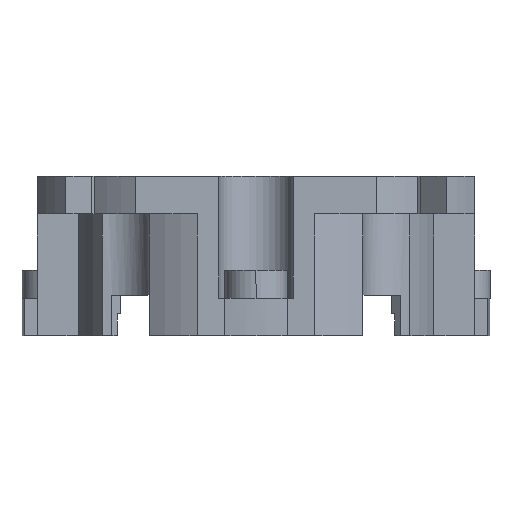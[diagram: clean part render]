
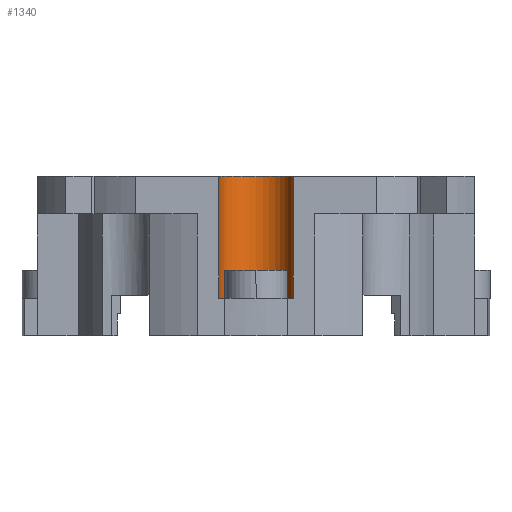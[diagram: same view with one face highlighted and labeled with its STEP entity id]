
A CAD part, left-side view. The second image highlights one B-rep face of the part: STEP entity #1340.
In plain terms, the highlighted cylindrical face has radius 6 mm (diameter 12 mm), a partial arc.
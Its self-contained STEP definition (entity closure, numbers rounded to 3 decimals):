
#1340=ADVANCED_FACE('',(#1491),#3985,.F.);
#1491=FACE_OUTER_BOUND('',#1643,.T.);
#1643=EDGE_LOOP('',(#2356,#2357,#2358,#2359));
#2356=ORIENTED_EDGE('',*,*,#2868,.F.);
#2357=ORIENTED_EDGE('',*,*,#2871,.F.);
#2358=ORIENTED_EDGE('',*,*,#2869,.F.);
#2359=ORIENTED_EDGE('',*,*,#2870,.F.);
#2868=EDGE_CURVE('',#3831,#3726,#3508,.T.);
#2869=EDGE_CURVE('',#3727,#3830,#3509,.T.);
#2870=EDGE_CURVE('',#3726,#3727,#3110,.T.);
#2871=EDGE_CURVE('',#3830,#3831,#3111,.T.);
#3110=TRIMMED_CURVE($,#3288,(#6264),(#6265),.T.,.CARTESIAN.);
#3111=TRIMMED_CURVE($,#3289,(#6267),(#6268),.T.,.CARTESIAN.);
#3288=CIRCLE('',#4473,6.);
#3289=CIRCLE('',#4474,6.);
#3508=B_SPLINE_CURVE_WITH_KNOTS('',1,(#6259,#6260),.UNSPECIFIED.,.F.,.F.,
(2,2),(0.,19.5),.UNSPECIFIED.);
#3509=B_SPLINE_CURVE_WITH_KNOTS('',1,(#6261,#6262),.UNSPECIFIED.,.F.,.F.,
(2,2),(0.,19.5),.UNSPECIFIED.);
#3726=VERTEX_POINT('',#5331);
#3727=VERTEX_POINT('',#5332);
#3830=VERTEX_POINT('',#5435);
#3831=VERTEX_POINT('',#5436);
#3985=CYLINDRICAL_SURFACE('',#4290,6.);
#4290=AXIS2_PLACEMENT_3D('',#5138,#4625,$);
#4473=AXIS2_PLACEMENT_3D($,#6263,#4952,#4953);
#4474=AXIS2_PLACEMENT_3D($,#6266,#4954,#4955);
#4625=DIRECTION('',(1.,0.,0.));
#4952=DIRECTION('',(-1.,0.,0.));
#4953=DIRECTION('',(0.,1.,0.));
#4954=DIRECTION('',(1.,0.,0.));
#4955=DIRECTION('',(0.,-1.,0.));
#5138=CARTESIAN_POINT('',(15.75,0.,32.5));
#5331=CARTESIAN_POINT('',(25.5,6.,32.5));
#5332=CARTESIAN_POINT('',(25.5,-6.,32.5));
#5435=CARTESIAN_POINT('',(6.,-6.,32.5));
#5436=CARTESIAN_POINT('',(6.,6.,32.5));
#6259=CARTESIAN_POINT('',(6.,6.,32.5));
#6260=CARTESIAN_POINT('',(25.5,6.,32.5));
#6261=CARTESIAN_POINT('',(25.5,-6.,32.5));
#6262=CARTESIAN_POINT('',(6.,-6.,32.5));
#6263=CARTESIAN_POINT('',(25.5,0.,32.5));
#6264=CARTESIAN_POINT('',(25.5,6.,32.5));
#6265=CARTESIAN_POINT('',(25.5,-6.,32.5));
#6266=CARTESIAN_POINT('',(6.,0.,32.5));
#6267=CARTESIAN_POINT('',(6.,-6.,32.5));
#6268=CARTESIAN_POINT('',(6.,6.,32.5));
